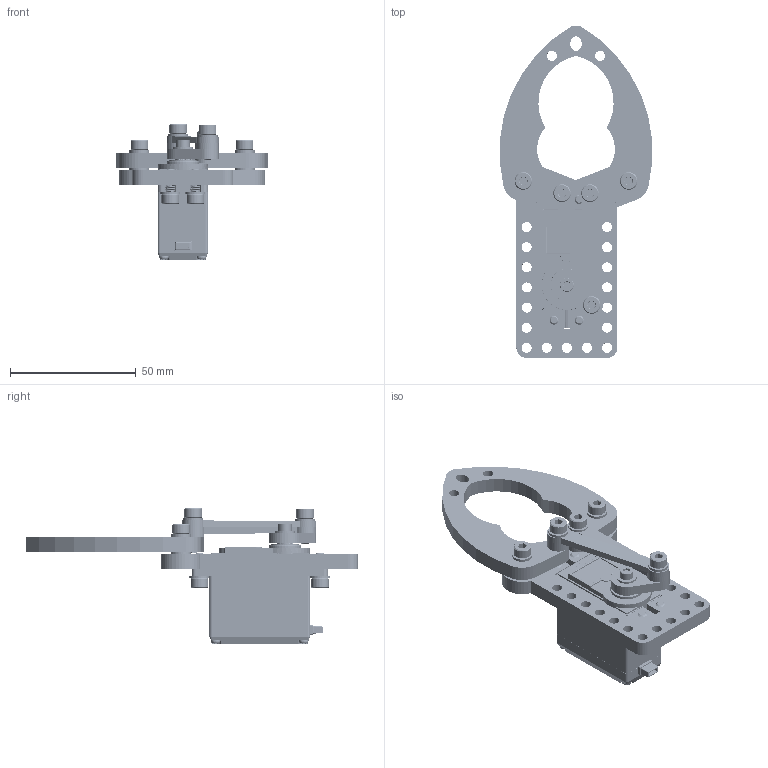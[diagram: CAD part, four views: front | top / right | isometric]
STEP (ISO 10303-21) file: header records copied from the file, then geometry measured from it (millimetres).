
FILE_DESCRIPTION(/* description */ (''),/* implementation_level */ '2;1');
FILE_NAME(/* name */ '3219-0002-0002.step',/* time_stamp */ '2024-04-18T15:50:54-05:00',/* author */ (''),/* organization */ (''),/* preprocessor_version */ 'ST-DEVELOPER v20',/* originating_system */ 'Autodesk Translation Framework v12.20.1.177',/* authorisation */ '');
FILE_SCHEMA (('AUTOMOTIVE_DESIGN { 1 0 10303 214 3 1 1 }'));
Products named in the file (28): (Unsaved); 1131-0040-0004 v2; 1131-0040-0005 v2; 1131-0160-0071 v2; 1131-0160-0072 v2; 1131-0160-0073 v2; 2002-0180-0002 v2; 2002 Series Servo; Topcase; Hardware; Screw; Wire Seal; Midcase; Botcase; Spline; Labels; 2002-0180-0002 Side Label v1; 2002-0180-0002 Top Label v1; 1131-0024-0007 Deformed v5; 1131-0024-0008 Deformed v3; HARDWARE_1; 2801-0003-0008 v2; 2801-0004-0008 v7; 2800-0003-0006 v5; 2800-0004-0010 v7; 2800-0004-0014 v8; 1131-0024-0008 v3; 1131-0024-0007 v0
Assembly tree (48 placements, depth 5):
  (Unsaved)
    1131-0040-0004 v2
    1131-0040-0005 v2
    1131-0160-0071 v2
    1131-0160-0072 v2
    1131-0160-0073 v2
    2002-0180-0002 v2
      2002 Series Servo
        Topcase
        Hardware
          Screw  x4
        Wire Seal
        Midcase
        Botcase
      Spline
      Labels
        2002-0180-0002 Side Label v1
        2002-0180-0002 Top Label v1
    1131-0024-0007 Deformed v5
    1131-0024-0008 Deformed v3
    HARDWARE_1
      2801-0003-0008 v2
      2801-0004-0008 v7  x12
      2800-0003-0006 v5
      2800-0004-0010 v7  x6
      2800-0004-0014 v8  x3
    1131-0024-0008 v3
    1131-0024-0007 v0
Bounding box: 60.59 x 132.02 x 54.2 mm (x, y, z)
Volume: 62716.7 mm3; surface area: 38413.3 mm2
Topology: 43 solids, 43 shells, 1808 faces, 4678 edges, 2983 vertices
Faces by surface type: cylinder 923, plane 483, cone 200, torus 118, bspline 60, sphere 24
Full cylindrical faces by diameter (mm): 1.5 x4, 1.509 x104, 2 x104, 2.35 x11, 2.529 x11, 3 x10, 3.086 x12, 3.091 x135, 3.25 x1, 3.3 x9, 4 x177, 5.5 x1, 6.1 x1, 6.25 x1, 7 x9, 8 x13, 8.89 x1, 11 x1, 12.9 x1
Entity records: 61131 total; most frequent: CARTESIAN_POINT 33571, ORIENTED_EDGE 5714, DIRECTION 5505, EDGE_CURVE 2857, AXIS2_PLACEMENT_3D 2098, VERTEX_POINT 1806, LINE 1309, VECTOR 1309
